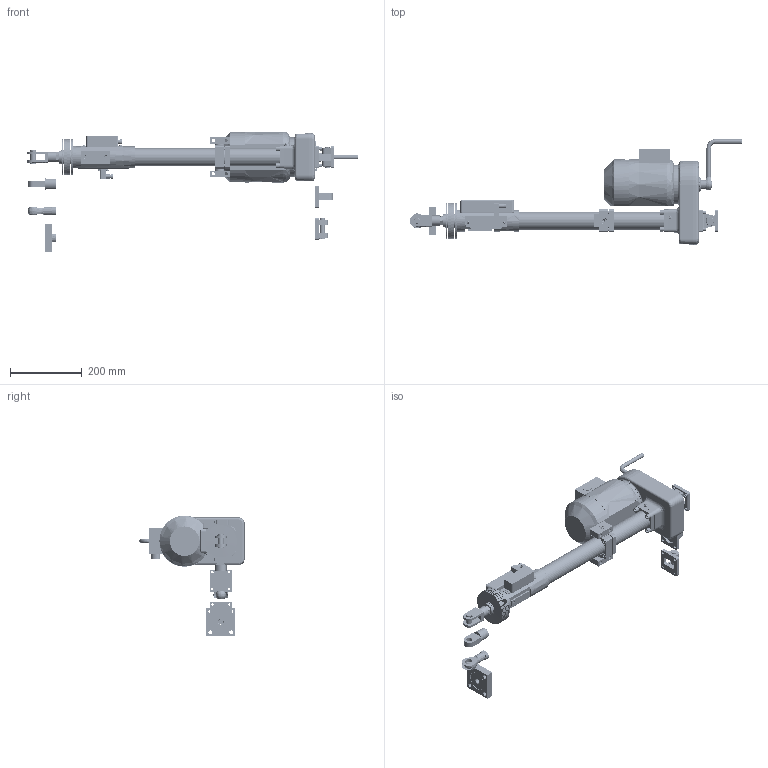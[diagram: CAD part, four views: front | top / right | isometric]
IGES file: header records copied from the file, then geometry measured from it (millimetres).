
Start section: SolidWorks IGES file using analytic representation for surfaces
Global section: file name: E:\Ïðîåêòíàÿ äîêóìåíòàöèÿ\ïðîåêòû\â ðàçðàáîòêå\êóçíåöîâ\ÌÝÏ-Ñ1\Ðåêëàìà\Ñ1-400.IGS; native system: SolidWorks 2012; preprocessor: SolidWorks 2012; author: Êóçíåöîâ; date: 131211.140655; units: millimetre
Bounding box: 925.12 x 293.4 x 336 mm (x, y, z)
Surface area: 838854.1 mm2 (no closed solid volume)
Topology: 0 solids, 0 shells, 2070 faces, 44041 edges, 44029 vertices
Faces by surface type: revolution 1113, bspline 957
